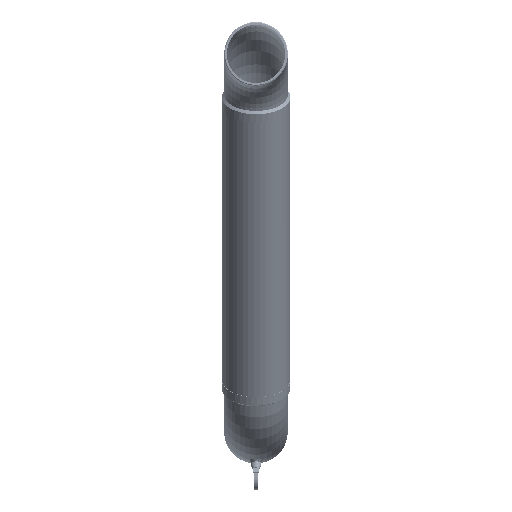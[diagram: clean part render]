
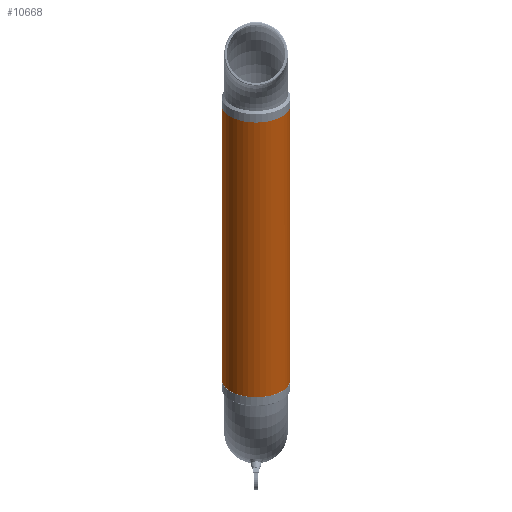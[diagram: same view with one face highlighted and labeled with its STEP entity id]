
A CAD part, front view. The second image highlights one B-rep face of the part: STEP entity #10668.
In plain terms, the highlighted cylindrical face has radius 90.043 mm (diameter 180.086 mm), a full revolution.
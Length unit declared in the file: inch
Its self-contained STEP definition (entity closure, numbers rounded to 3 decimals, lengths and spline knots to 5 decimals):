
#10641=CARTESIAN_POINT('',(0.0,0.0,0.0));
#10642=DIRECTION('',(0.0,0.0,1.0));
#10643=DIRECTION('',(-1.0,0.0,0.0));
#10644=AXIS2_PLACEMENT_3D('',#10641,#10642,#10643);
#10645=CYLINDRICAL_SURFACE('',#10644,3.545);
#10646=CARTESIAN_POINT('',(3.545,0.,34.957));
#10647=VERTEX_POINT('',#10646);
#10648=CARTESIAN_POINT('',(0.0,0.0,34.957));
#10649=DIRECTION('',(0.0,0.0,-1.0));
#10650=DIRECTION('',(-1.0,0.0,0.0));
#10651=AXIS2_PLACEMENT_3D('',#10648,#10649,#10650);
#10652=CIRCLE('',#10651,3.545);
#10653=EDGE_CURVE('',#10647,#10647,#10652,.T.);
#10654=ORIENTED_EDGE('',*,*,#10653,.T.);
#10655=EDGE_LOOP('',(#10654));
#10656=FACE_OUTER_BOUND('',#10655,.T.);
#10657=CARTESIAN_POINT('',(3.545,0.,0.0));
#10658=VERTEX_POINT('',#10657);
#10659=CARTESIAN_POINT('',(0.0,0.0,0.0));
#10660=DIRECTION('',(0.0,0.0,-1.0));
#10661=DIRECTION('',(-1.0,0.0,0.0));
#10662=AXIS2_PLACEMENT_3D('',#10659,#10660,#10661);
#10663=CIRCLE('',#10662,3.545);
#10664=EDGE_CURVE('',#10658,#10658,#10663,.T.);
#10665=ORIENTED_EDGE('',*,*,#10664,.F.);
#10666=EDGE_LOOP('',(#10665));
#10667=FACE_BOUND('',#10666,.T.);
#10668=ADVANCED_FACE('',(#10656,#10667),#10645,.T.);
